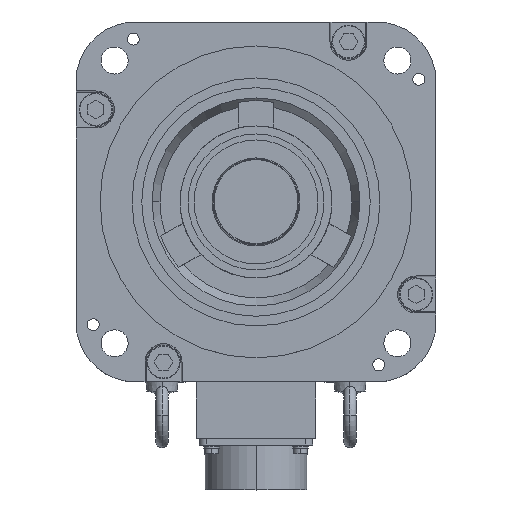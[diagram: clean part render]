
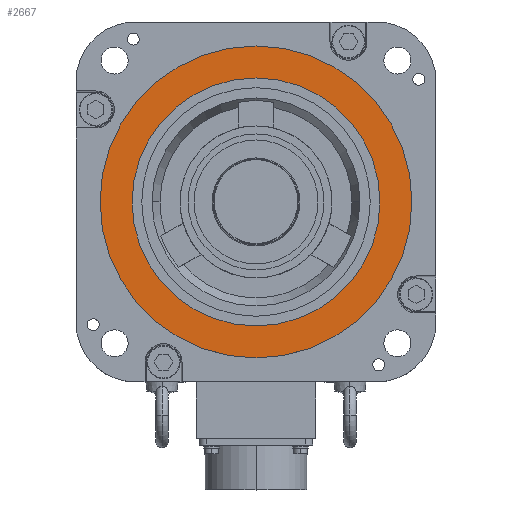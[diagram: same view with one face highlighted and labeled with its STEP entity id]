
A CAD part, top view. The second image highlights one B-rep face of the part: STEP entity #2667.
In plain terms, the highlighted planar face has unit normal (0, 0, 1).
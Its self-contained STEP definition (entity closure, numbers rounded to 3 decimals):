
#2667 = ADVANCED_FACE ( 'NONE', ( #13361, #13360 ), #13359, .T. ) ;
#2668 = EDGE_LOOP ( 'NONE', ( #2669, #2672 ) ) ;
#2669 = ORIENTED_EDGE ( 'NONE', *, *, #2670, .T. ) ;
#2670 = EDGE_CURVE ( 'NONE', #19093, #19092, #13352, .T. ) ;
#2672 = ORIENTED_EDGE ( 'NONE', *, *, #19103, .T. ) ;
#2673 = EDGE_LOOP ( 'NONE', ( #2674, #2730 ) ) ;
#2674 = ORIENTED_EDGE ( 'NONE', *, *, #2729, .F. ) ;
#2729 = EDGE_CURVE ( 'NONE', #9212, #9251, #13446, .T. ) ;
#2730 = ORIENTED_EDGE ( 'NONE', *, *, #11322, .F. ) ;
#9212 = VERTEX_POINT ( 'NONE', #23618 ) ;
#9251 = VERTEX_POINT ( 'NONE', #23681 ) ;
#11322 = EDGE_CURVE ( 'NONE', #9251, #9212, #24376, .T. ) ;
#13348 = DIRECTION ( 'NONE',  ( 1., 0., 0. ) ) ;
#13349 = DIRECTION ( 'NONE',  ( 0., 0., 1. ) ) ;
#13350 = CARTESIAN_POINT ( 'NONE',  ( 0., 0., -0.5 ) ) ;
#13351 = AXIS2_PLACEMENT_3D ( 'NONE', #13350, #13349, #13348 ) ;
#13352 = CIRCLE ( 'NONE', #13351, 78. ) ;
#13354 = DIRECTION ( 'NONE',  ( 1., 0., 0. ) ) ;
#13355 = DIRECTION ( 'NONE',  ( 0., 0., 1. ) ) ;
#13357 = CARTESIAN_POINT ( 'NONE',  ( 0., 0., -0.5 ) ) ;
#13358 = AXIS2_PLACEMENT_3D ( 'NONE', #13357, #13355, #13354 ) ;
#13359 = PLANE ( 'NONE',  #13358 ) ;
#13360 = FACE_BOUND ( 'NONE', #2673, .T. ) ;
#13361 = FACE_OUTER_BOUND ( 'NONE', #2668, .T. ) ;
#13442 = DIRECTION ( 'NONE',  ( 1., 0., 0. ) ) ;
#13443 = DIRECTION ( 'NONE',  ( 0., 0., 1. ) ) ;
#13444 = CARTESIAN_POINT ( 'NONE',  ( 0., 0., -0.5 ) ) ;
#13445 = AXIS2_PLACEMENT_3D ( 'NONE', #13444, #13443, #13442 ) ;
#13446 = CIRCLE ( 'NONE', #13445, 62. ) ;
#19092 = VERTEX_POINT ( 'NONE', #25159 ) ;
#19093 = VERTEX_POINT ( 'NONE', #25158 ) ;
#19103 = EDGE_CURVE ( 'NONE', #19092, #19093, #25157, .T. ) ;
#23618 = CARTESIAN_POINT ( 'NONE',  ( -62., 0., -0.5 ) ) ;
#23681 = CARTESIAN_POINT ( 'NONE',  ( 62., 0., -0.5 ) ) ;
#24372 = DIRECTION ( 'NONE',  ( 1., 0., 0. ) ) ;
#24373 = DIRECTION ( 'NONE',  ( 0., 0., 1. ) ) ;
#24374 = CARTESIAN_POINT ( 'NONE',  ( 0., 0., -0.5 ) ) ;
#24375 = AXIS2_PLACEMENT_3D ( 'NONE', #24374, #24373, #24372 ) ;
#24376 = CIRCLE ( 'NONE', #24375, 62. ) ;
#25154 = DIRECTION ( 'NONE',  ( 0., 0., 1. ) ) ;
#25155 = CARTESIAN_POINT ( 'NONE',  ( 0., 0., -0.5 ) ) ;
#25156 = AXIS2_PLACEMENT_3D ( 'NONE', #25155, #25154, #25216 ) ;
#25157 = CIRCLE ( 'NONE', #25156, 78. ) ;
#25158 = CARTESIAN_POINT ( 'NONE',  ( 78., 0., -0.5 ) ) ;
#25159 = CARTESIAN_POINT ( 'NONE',  ( -78., 0., -0.5 ) ) ;
#25216 = DIRECTION ( 'NONE',  ( 1., 0., 0. ) ) ;
